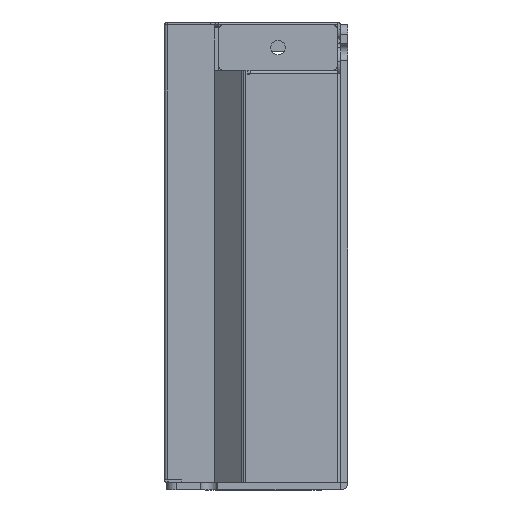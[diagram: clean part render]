
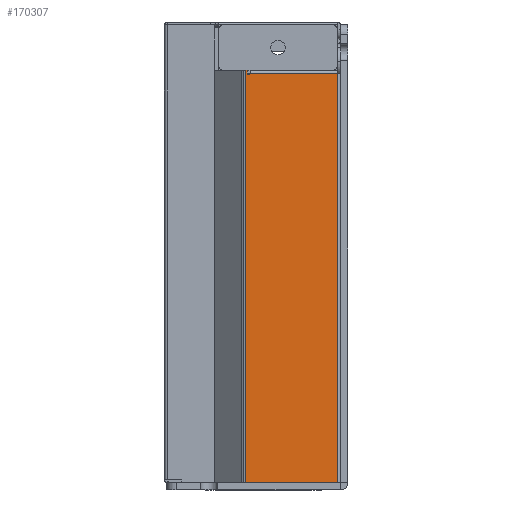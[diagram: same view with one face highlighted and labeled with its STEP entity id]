
A CAD part, left-side view. The second image highlights one B-rep face of the part: STEP entity #170307.
In plain terms, the highlighted planar face has unit normal (-1, 0, 0).
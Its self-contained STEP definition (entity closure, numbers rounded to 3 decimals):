
#99855=DIRECTION('',(0.,-1.,0.));
#99856=VECTOR('',#99855,85.5);
#99857=CARTESIAN_POINT('',(-87.45,47.65,-16.849));
#99858=LINE('',#99857,#99856);
#99877=DIRECTION('',(0.,0.,1.));
#99878=VECTOR('',#99877,19.051);
#99879=CARTESIAN_POINT('',(-87.45,47.65,-35.9));
#99880=LINE('',#99879,#99878);
#99884=DIRECTION('',(0.,0.,-1.));
#99885=VECTOR('',#99884,0.3);
#99886=CARTESIAN_POINT('',(-87.45,-37.85,-16.849));
#99887=LINE('',#99886,#99885);
#99891=DIRECTION('',(0.,1.,0.));
#99892=VECTOR('',#99891,0.6);
#99893=CARTESIAN_POINT('',(-87.45,-37.85,-17.149));
#99894=LINE('',#99893,#99892);
#99898=CARTESIAN_POINT('',(-87.45,-37.25,-17.449));
#99899=DIRECTION('',(-1.,0.,0.));
#99900=DIRECTION('',(0.,0.,1.));
#99901=AXIS2_PLACEMENT_3D('',#99898,#99899,#99900);
#99914=DIRECTION('',(0.,0.,-1.));
#99915=VECTOR('',#99914,18.151);
#99916=CARTESIAN_POINT('',(-87.45,-37.25,-17.749));
#99917=LINE('',#99916,#99915);
#100312=DIRECTION('',(0.,-1.,0.));
#100313=VECTOR('',#100312,84.9);
#100314=CARTESIAN_POINT('',(-87.45,47.65,-35.9));
#100315=LINE('',#100314,#100313);
#134454=CARTESIAN_POINT('',(-87.45,47.65,-35.9));
#134455=CARTESIAN_POINT('',(-87.45,47.65,-16.849));
#134456=VERTEX_POINT('',#134454);
#134457=VERTEX_POINT('',#134455);
#134476=CARTESIAN_POINT('',(-87.45,-37.85,-16.849));
#134477=VERTEX_POINT('',#134476);
#134480=CARTESIAN_POINT('',(-87.45,-37.85,-17.149));
#134481=CARTESIAN_POINT('',(-87.45,-37.25,-17.149));
#134482=VERTEX_POINT('',#134480);
#134483=VERTEX_POINT('',#134481);
#134484=CARTESIAN_POINT('',(-87.45,-37.25,-17.749));
#134485=VERTEX_POINT('',#134484);
#134498=CARTESIAN_POINT('',(-87.45,-37.25,-35.9));
#134499=VERTEX_POINT('',#134498);
#170288=CARTESIAN_POINT('',(-87.45,25.102,-16.6));
#170289=DIRECTION('',(1.,0.,0.));
#170290=DIRECTION('',(0.,-1.,0.));
#170291=AXIS2_PLACEMENT_3D('',#170288,#170289,#170290);
#170292=PLANE('',#170291);
#170294=ORIENTED_EDGE('',*,*,#170293,.T.);
#170296=ORIENTED_EDGE('',*,*,#170295,.F.);
#170298=ORIENTED_EDGE('',*,*,#170297,.T.);
#170299=ORIENTED_EDGE('',*,*,#170281,.T.);
#170300=ORIENTED_EDGE('',*,*,#170185,.T.);
#170302=ORIENTED_EDGE('',*,*,#170301,.T.);
#170304=ORIENTED_EDGE('',*,*,#170303,.T.);
#170305=EDGE_LOOP('',(#170294,#170296,#170298,#170299,#170300,#170302,#170304));
#170306=FACE_OUTER_BOUND('',#170305,.F.);
#99902=CIRCLE('',#99901,0.3);
#170185=EDGE_CURVE('',#134477,#134482,#99887,.T.);
#170281=EDGE_CURVE('',#134457,#134477,#99858,.T.);
#170293=EDGE_CURVE('',#134485,#134499,#99917,.T.);
#170295=EDGE_CURVE('',#134456,#134499,#100315,.T.);
#170297=EDGE_CURVE('',#134456,#134457,#99880,.T.);
#170301=EDGE_CURVE('',#134482,#134483,#99894,.T.);
#170303=EDGE_CURVE('',#134483,#134485,#99902,.T.);
#170307=ADVANCED_FACE('',(#170306),#170292,.F.);
